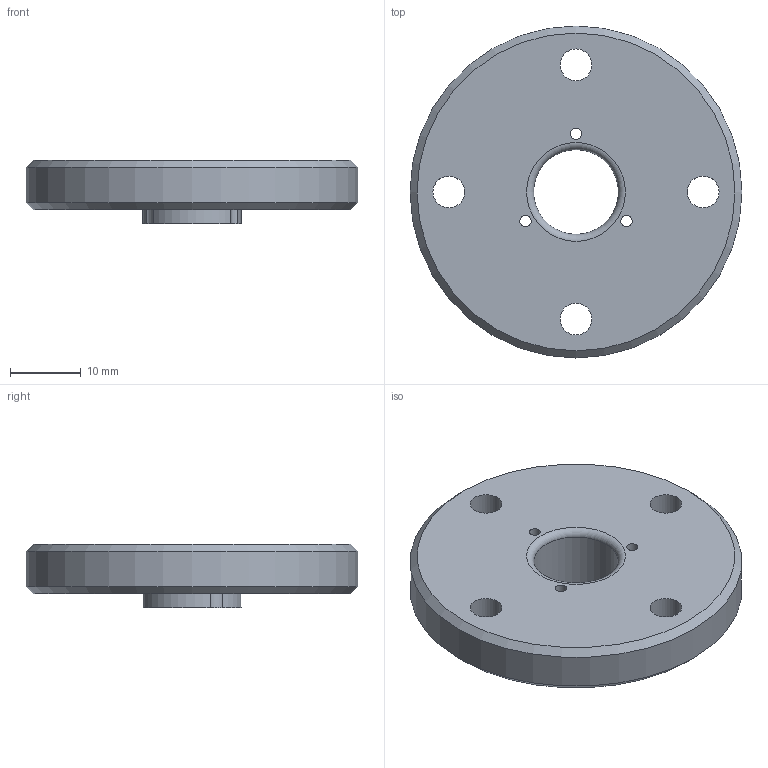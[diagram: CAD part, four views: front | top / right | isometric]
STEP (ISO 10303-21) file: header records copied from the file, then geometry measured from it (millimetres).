
FILE_DESCRIPTION (( 'STEP AP214' ), '1' );
FILE_NAME ('AD36008-35-12-Adapter-SPF-K-35.STEP', '2025-01-13T15:04:21', ( '' ), ( '' ), 'SwSTEP 2.0', 'SolidWorks 2022', '' );
FILE_SCHEMA (( 'AUTOMOTIVE_DESIGN' ));
Length unit declared in the file: millimetre
Products named in the file (1): AD36008-35-12-Adapter-SPF-K-35
Bounding box: 47 x 47 x 9 mm (x, y, z)
Volume: 10349.6 mm3; surface area: 5013.6 mm2
Topology: 1 solids, 1 shells, 36 faces, 77 edges, 48 vertices
Faces by surface type: cylinder 19, cone 9, plane 7, torus 1
Full cylindrical faces by diameter (mm): 1.6 x3, 4.5 x4, 8 x4, 12 x1, 47 x1
Entity records: 973 total; most frequent: DIRECTION 176, CARTESIAN_POINT 139, ORIENTED_EDGE 108, AXIS2_PLACEMENT_3D 85, EDGE_LOOP 80, EDGE_CURVE 54, FACE_OUTER_BOUND 50, VERTEX_POINT 48
